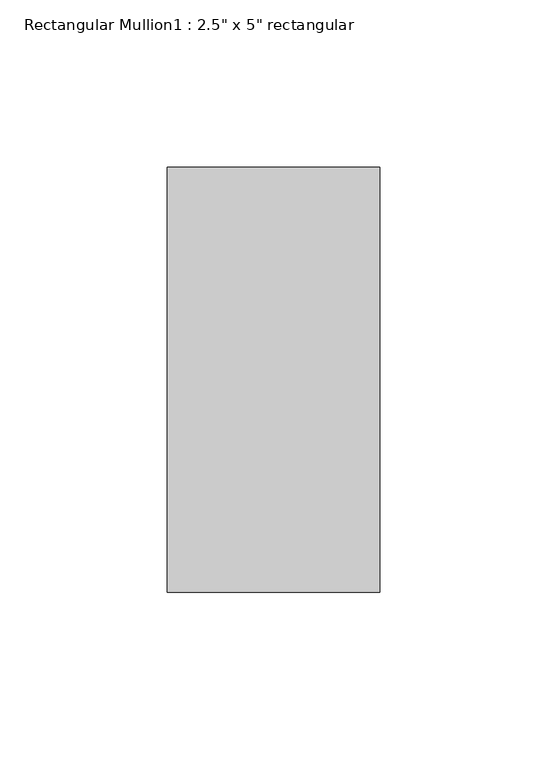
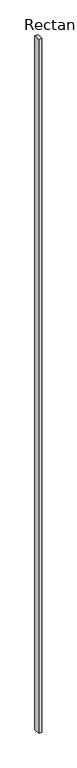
"""IFC4 building model written with IfcOpenShell, lengths in millimetres: member geometry."""

from ifc_helpers import new_model, si_unit, frame, origin, place, context, project, spatial, polyline, outline, extrude, source, transform, mapped, element, save


def member_8669c44b(model_context):
    return source(origin(), model_context, "Body", "SweptSolid", [
        extrude(outline(polyline([(31.75, 63.5), (31.75, -63.5), (-31.75, -63.5), (-31.75, 63.5), (31.75, 63.5)])), frame((0.0, 0.0, -14960.6), z_axis=(0.0, 0.0, 1.0), x_axis=(1.0, 0.0, 0.0)), (0.0, 0.0, 1.0), 14960.6),
    ])


if __name__ == "__main__":
    model = new_model("IFC4")
    model_context = context("Model", 3, world=origin())
    ifc_project = project(units=[si_unit("LENGTHUNIT", "METRE", prefix="MILLI")], contexts=[model_context])
    site = spatial("IfcSite", under=ifc_project)
    building = spatial("IfcBuilding", under=site)
    placement = place(None, origin())
    member_shape = member_8669c44b(model_context)
    element("IfcMember", 1, ObjectType="Rectangular Mullion1 : 2.5\" x 5\" rectangular", at=placement, inside=building, context=model_context, shape_type="MappedRepresentation", body=[
        mapped(member_shape, transform((0.0, 0.0, 0.0), x_axis=(1.0, 0.0, 0.0), y_axis=(0.0, 1.0, 0.0), z_axis=(0.0, 0.0, 1.0))),
    ])
    save(model, "model.ifc")
